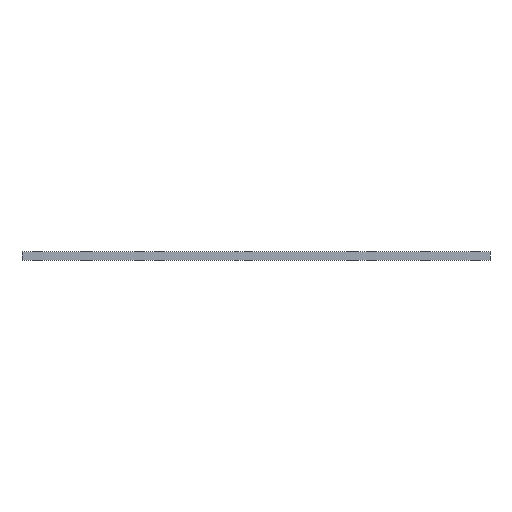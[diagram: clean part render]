
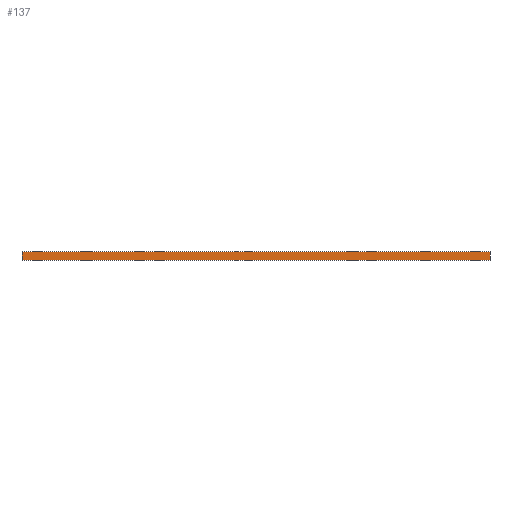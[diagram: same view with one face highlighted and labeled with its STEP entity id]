
A CAD part, front view. The second image highlights one B-rep face of the part: STEP entity #137.
In plain terms, the highlighted planar face has unit normal (0, -1, 0).
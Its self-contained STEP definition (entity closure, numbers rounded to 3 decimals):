
#24 = VERTEX_POINT('',#25);
#25 = CARTESIAN_POINT('',(-80.,-110.,35.));
#32 = PLANE('',#33);
#33 = AXIS2_PLACEMENT_3D('',#34,#35,#36);
#34 = CARTESIAN_POINT('',(-80.,-110.,32.));
#35 = DIRECTION('',(1.,0.,0.));
#36 = DIRECTION('',(0.,0.,1.));
#44 = PLANE('',#45);
#45 = AXIS2_PLACEMENT_3D('',#46,#47,#48);
#46 = CARTESIAN_POINT('',(-80.,-110.,35.));
#47 = DIRECTION('',(0.,0.,1.));
#48 = DIRECTION('',(1.,0.,0.));
#85 = VERTEX_POINT('',#86);
#86 = CARTESIAN_POINT('',(-80.,-110.,32.));
#100 = PLANE('',#101);
#101 = AXIS2_PLACEMENT_3D('',#102,#103,#104);
#102 = CARTESIAN_POINT('',(-80.,-110.,32.));
#103 = DIRECTION('',(0.,0.,1.));
#104 = DIRECTION('',(1.,0.,0.));
#112 = EDGE_CURVE('',#85,#24,#113,.T.);
#113 = SURFACE_CURVE('',#114,(#118,#125),.PCURVE_S1.);
#114 = LINE('',#115,#116);
#115 = CARTESIAN_POINT('',(-80.,-110.,32.));
#116 = VECTOR('',#117,1.);
#117 = DIRECTION('',(0.,0.,1.));
#118 = PCURVE('',#32,#119);
#119 = DEFINITIONAL_REPRESENTATION('',(#120),#124);
#120 = LINE('',#121,#122);
#121 = CARTESIAN_POINT('',(0.,0.));
#122 = VECTOR('',#123,1.);
#123 = DIRECTION('',(1.,0.));
#124 = ( GEOMETRIC_REPRESENTATION_CONTEXT(2) 
PARAMETRIC_REPRESENTATION_CONTEXT() REPRESENTATION_CONTEXT('2D SPACE',''
  ) );
#125 = PCURVE('',#126,#131);
#126 = PLANE('',#127);
#127 = AXIS2_PLACEMENT_3D('',#128,#129,#130);
#128 = CARTESIAN_POINT('',(-80.,-110.,32.));
#129 = DIRECTION('',(0.,1.,0.));
#130 = DIRECTION('',(0.,0.,1.));
#131 = DEFINITIONAL_REPRESENTATION('',(#132),#136);
#132 = LINE('',#133,#134);
#133 = CARTESIAN_POINT('',(0.,0.));
#134 = VECTOR('',#135,1.);
#135 = DIRECTION('',(1.,0.));
#136 = ( GEOMETRIC_REPRESENTATION_CONTEXT(2) 
PARAMETRIC_REPRESENTATION_CONTEXT() REPRESENTATION_CONTEXT('2D SPACE',''
  ) );
#137 = ADVANCED_FACE('',(#138),#126,.F.);
#138 = FACE_BOUND('',#139,.T.);
#139 = EDGE_LOOP('',(#140,#170,#191,#192));
#140 = ORIENTED_EDGE('',*,*,#141,.T.);
#141 = EDGE_CURVE('',#142,#144,#146,.T.);
#142 = VERTEX_POINT('',#143);
#143 = CARTESIAN_POINT('',(80.,-110.,32.));
#144 = VERTEX_POINT('',#145);
#145 = CARTESIAN_POINT('',(80.,-110.,35.));
#146 = SURFACE_CURVE('',#147,(#151,#158),.PCURVE_S1.);
#147 = LINE('',#148,#149);
#148 = CARTESIAN_POINT('',(80.,-110.,32.));
#149 = VECTOR('',#150,1.);
#150 = DIRECTION('',(0.,0.,1.));
#151 = PCURVE('',#126,#152);
#152 = DEFINITIONAL_REPRESENTATION('',(#153),#157);
#153 = LINE('',#154,#155);
#154 = CARTESIAN_POINT('',(0.,160.));
#155 = VECTOR('',#156,1.);
#156 = DIRECTION('',(1.,0.));
#157 = ( GEOMETRIC_REPRESENTATION_CONTEXT(2) 
PARAMETRIC_REPRESENTATION_CONTEXT() REPRESENTATION_CONTEXT('2D SPACE',''
  ) );
#158 = PCURVE('',#159,#164);
#159 = PLANE('',#160);
#160 = AXIS2_PLACEMENT_3D('',#161,#162,#163);
#161 = CARTESIAN_POINT('',(80.,-110.,32.));
#162 = DIRECTION('',(1.,0.,0.));
#163 = DIRECTION('',(0.,0.,1.));
#164 = DEFINITIONAL_REPRESENTATION('',(#165),#169);
#165 = LINE('',#166,#167);
#166 = CARTESIAN_POINT('',(0.,0.));
#167 = VECTOR('',#168,1.);
#168 = DIRECTION('',(1.,0.));
#169 = ( GEOMETRIC_REPRESENTATION_CONTEXT(2) 
PARAMETRIC_REPRESENTATION_CONTEXT() REPRESENTATION_CONTEXT('2D SPACE',''
  ) );
#170 = ORIENTED_EDGE('',*,*,#171,.F.);
#171 = EDGE_CURVE('',#24,#144,#172,.T.);
#172 = SURFACE_CURVE('',#173,(#177,#184),.PCURVE_S1.);
#173 = LINE('',#174,#175);
#174 = CARTESIAN_POINT('',(-80.,-110.,35.));
#175 = VECTOR('',#176,1.);
#176 = DIRECTION('',(1.,0.,0.));
#177 = PCURVE('',#126,#178);
#178 = DEFINITIONAL_REPRESENTATION('',(#179),#183);
#179 = LINE('',#180,#181);
#180 = CARTESIAN_POINT('',(3.,0.));
#181 = VECTOR('',#182,1.);
#182 = DIRECTION('',(0.,1.));
#183 = ( GEOMETRIC_REPRESENTATION_CONTEXT(2) 
PARAMETRIC_REPRESENTATION_CONTEXT() REPRESENTATION_CONTEXT('2D SPACE',''
  ) );
#184 = PCURVE('',#44,#185);
#185 = DEFINITIONAL_REPRESENTATION('',(#186),#190);
#186 = LINE('',#187,#188);
#187 = CARTESIAN_POINT('',(0.,0.));
#188 = VECTOR('',#189,1.);
#189 = DIRECTION('',(1.,0.));
#190 = ( GEOMETRIC_REPRESENTATION_CONTEXT(2) 
PARAMETRIC_REPRESENTATION_CONTEXT() REPRESENTATION_CONTEXT('2D SPACE',''
  ) );
#191 = ORIENTED_EDGE('',*,*,#112,.F.);
#192 = ORIENTED_EDGE('',*,*,#193,.T.);
#193 = EDGE_CURVE('',#85,#142,#194,.T.);
#194 = SURFACE_CURVE('',#195,(#199,#206),.PCURVE_S1.);
#195 = LINE('',#196,#197);
#196 = CARTESIAN_POINT('',(-80.,-110.,32.));
#197 = VECTOR('',#198,1.);
#198 = DIRECTION('',(1.,0.,0.));
#199 = PCURVE('',#126,#200);
#200 = DEFINITIONAL_REPRESENTATION('',(#201),#205);
#201 = LINE('',#202,#203);
#202 = CARTESIAN_POINT('',(0.,0.));
#203 = VECTOR('',#204,1.);
#204 = DIRECTION('',(0.,1.));
#205 = ( GEOMETRIC_REPRESENTATION_CONTEXT(2) 
PARAMETRIC_REPRESENTATION_CONTEXT() REPRESENTATION_CONTEXT('2D SPACE',''
  ) );
#206 = PCURVE('',#100,#207);
#207 = DEFINITIONAL_REPRESENTATION('',(#208),#212);
#208 = LINE('',#209,#210);
#209 = CARTESIAN_POINT('',(0.,0.));
#210 = VECTOR('',#211,1.);
#211 = DIRECTION('',(1.,0.));
#212 = ( GEOMETRIC_REPRESENTATION_CONTEXT(2) 
PARAMETRIC_REPRESENTATION_CONTEXT() REPRESENTATION_CONTEXT('2D SPACE',''
  ) );
